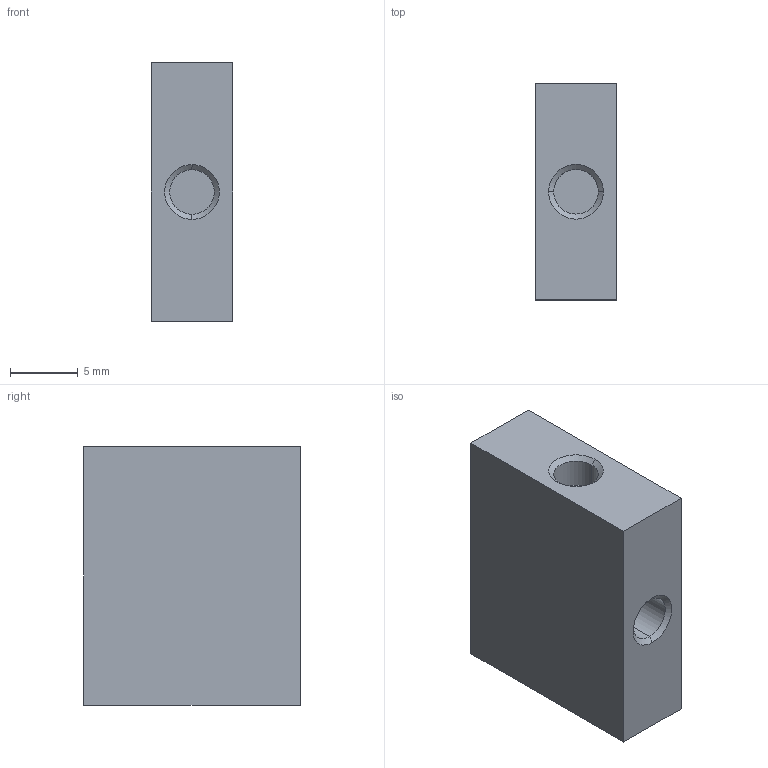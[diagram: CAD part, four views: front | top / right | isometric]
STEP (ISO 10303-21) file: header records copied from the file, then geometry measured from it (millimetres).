
FILE_DESCRIPTION (( 'STEP AP203' ), '1' );
FILE_NAME ('WS2-A.STEP', '2024-08-03T01:29:17', ( '' ), ( '' ), 'SwSTEP 2.0', 'SolidWorks 2023', '' );
FILE_SCHEMA (( 'CONFIG_CONTROL_DESIGN' ));
Length unit declared in the file: millimetre
Products named in the file (1): WS2-A
Bounding box: 6 x 16 x 19.1 mm (x, y, z)
Volume: 1758.9 mm3; surface area: 1114.7 mm2
Topology: 1 solids, 1 shells, 21 faces, 42 edges, 26 vertices
Faces by surface type: plane 9, cone 6, cylinder 6
Entity records: 623 total; most frequent: DIRECTION 104, CARTESIAN_POINT 90, ORIENTED_EDGE 84, EDGE_CURVE 42, AXIS2_PLACEMENT_3D 40, VERTEX_POINT 26, VECTOR 24, EDGE_LOOP 24
